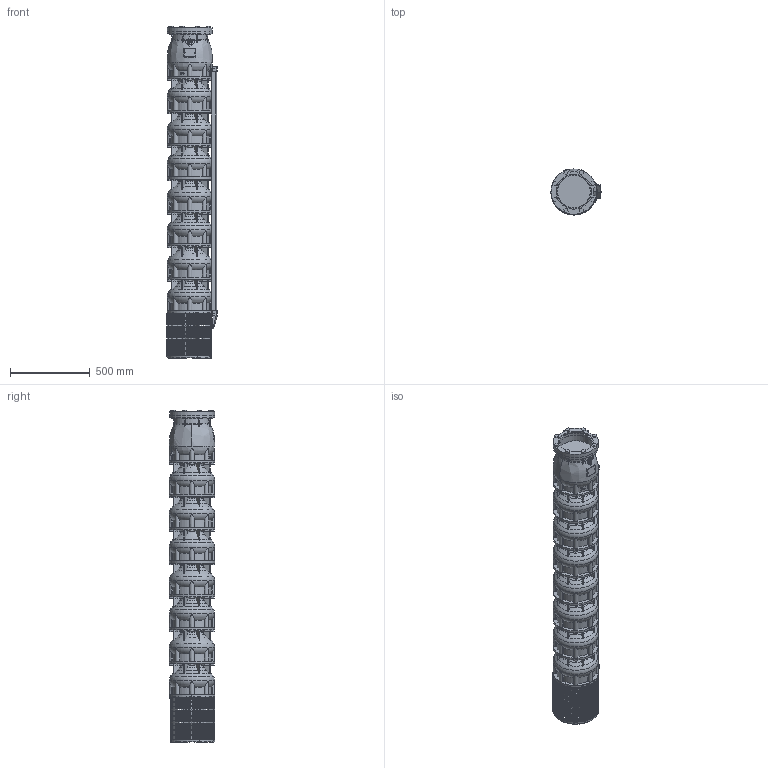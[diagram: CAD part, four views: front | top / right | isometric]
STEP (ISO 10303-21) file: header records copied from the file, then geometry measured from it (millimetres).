
FILE_DESCRIPTION(/* description */ ('-'),/* implementation_level */ '2;1');
FILE_NAME(/* name */ 'VSI344-7-2B_WF_M12-50_DME',/* time_stamp */ '2026-01-21T11:18:10+01:00',/* author */ ('Simonelli M.'),/* organization */ ('Franklin Electric Srl'),/* preprocessor_version */ 'ST-DEVELOPER v18.102',/* originating_system */ 'Solid Edge',/* authorisation */ 'Unknown');
FILE_SCHEMA (('AUTOMOTIVE_DESIGN {1 0 10303 214 3 1 1}'));
Products named in the file (12): VSI344-7-2B_WF_M12-50_DME; VSI344-454_testata; VSI344-454_supporto; VSI344-454_filtro_A; VSI344-454_filtro_B; VSI344-454_terminale_top_copricavo_medio; VSI344-454_terminale_bottom_copricavo_medio; MID 344-7; VSI344_diffusore; M5X8_UNI7687; VSI184-254_giunto_10×12; VSI344-454_flangia_testata
Assembly tree (26 placements, depth 2):
  VSI344-7-2B_WF_M12-50_DME
    VSI344-454_testata
    VSI344-454_supporto
    VSI344-454_filtro_A
    VSI344-454_filtro_B
    VSI344-454_terminale_top_copricavo_medio
    VSI344-454_terminale_bottom_copricavo_medio
    MID 344-7
    VSI344_diffusore  x7
    M5X8_UNI7687  x10
    VSI184-254_giunto_10×12
    VSI344-454_flangia_testata
Bounding box: 314.3 x 286 x 2085 mm (x, y, z)
Volume: 89152180.3 mm3; surface area: 4630310.1 mm2
Topology: 91 solids, 91 shells, 4872 faces, 13706 edges, 9108 vertices
Faces by surface type: plane 3805, cylinder 535, torus 390, cone 117, bspline 15, sphere 10
Full cylindrical faces by diameter (mm): 5 x10, 16 x8, 35 x1, 65 x1, 79 x1, 150 x1, 207 x1, 220.5 x1, 285 x7
Entity records: 124601 total; most frequent: CARTESIAN_POINT 28077, ORIENTED_EDGE 20264, DIRECTION 19370, EDGE_CURVE 10132, VERTEX_POINT 6757, AXIS2_PLACEMENT_3D 6543, LINE 6284, VECTOR 6284
